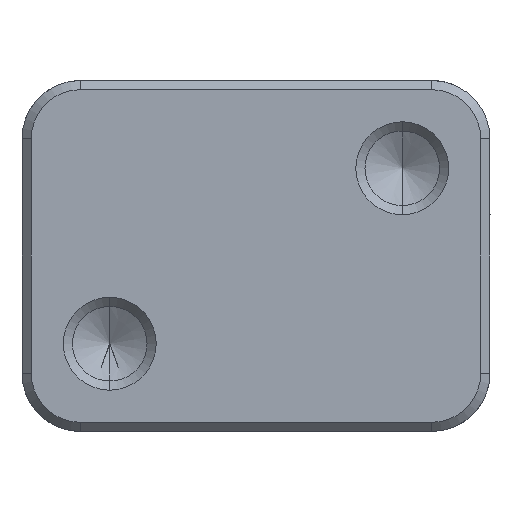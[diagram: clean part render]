
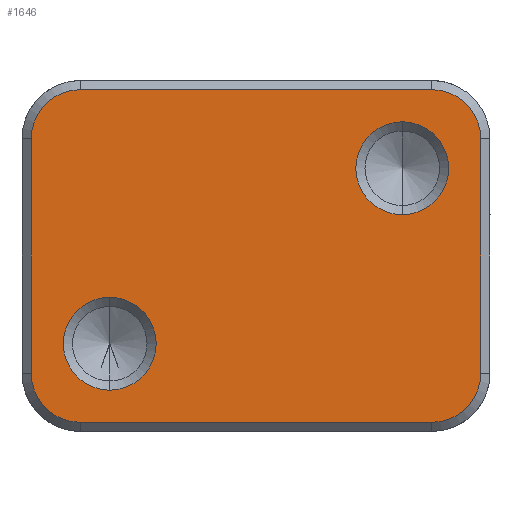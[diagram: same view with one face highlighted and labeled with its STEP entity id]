
A CAD part, front view. The second image highlights one B-rep face of the part: STEP entity #1646.
In plain terms, the highlighted planar face has unit normal (0, -1, 0).
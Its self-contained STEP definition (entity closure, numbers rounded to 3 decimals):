
#25 = CIRCLE ( 'NONE', #15623, 6.75 ) ;
#193 = AXIS2_PLACEMENT_3D ( 'NONE', #12850, #5248, #10377 ) ;
#196 = CARTESIAN_POINT ( 'NONE',  ( -20.001, 0., -18.362 ) ) ;
#272 = AXIS2_PLACEMENT_3D ( 'NONE', #15151, #6307, #5979 ) ;
#387 = VERTEX_POINT ( 'NONE', #14066 ) ;
#551 = ORIENTED_EDGE ( 'NONE', *, *, #14166, .T. ) ;
#659 = VERTEX_POINT ( 'NONE', #816 ) ;
#794 = CARTESIAN_POINT ( 'NONE',  ( 20.001, 0., 5.641 ) ) ;
#816 = CARTESIAN_POINT ( 'NONE',  ( -20.001, 0., -5.663 ) ) ;
#866 = CARTESIAN_POINT ( 'NONE',  ( -30.75, 0., -24.012 ) ) ;
#1018 = EDGE_CURVE ( 'NONE', #8733, #659, #9178, .T. ) ;
#1046 = DIRECTION ( 'NONE',  ( 0., 0., -1. ) ) ;
#1055 = ORIENTED_EDGE ( 'NONE', *, *, #13277, .F. ) ;
#1536 = VERTEX_POINT ( 'NONE', #12969 ) ;
#1646 = ADVANCED_FACE ( 'NONE', ( #3445, #10728, #8332 ), #5614, .T. ) ;
#1732 = VERTEX_POINT ( 'NONE', #8170 ) ;
#2555 = CARTESIAN_POINT ( 'NONE',  ( -24.001, 0., -16.012 ) ) ;
#2889 = CARTESIAN_POINT ( 'NONE',  ( 30.75, 0., -16.012 ) ) ;
#2956 = LINE ( 'NONE', #4598, #14144 ) ;
#3445 = FACE_BOUND ( 'NONE', #6456, .T. ) ;
#3537 = DIRECTION ( 'NONE',  ( 0., 1., 0. ) ) ;
#3930 = EDGE_CURVE ( 'NONE', #5977, #1732, #7165, .T. ) ;
#4195 = DIRECTION ( 'NONE',  ( 0., 0., 1. ) ) ;
#4285 = EDGE_CURVE ( 'NONE', #12590, #11844, #5567, .T. ) ;
#4290 = VERTEX_POINT ( 'NONE', #2889 ) ;
#4345 = CARTESIAN_POINT ( 'NONE',  ( -24.001, 0., 22.74 ) ) ;
#4598 = CARTESIAN_POINT ( 'NONE',  ( -32., 0., -22.762 ) ) ;
#4607 = AXIS2_PLACEMENT_3D ( 'NONE', #7475, #6541, #6626 ) ;
#4771 = CARTESIAN_POINT ( 'NONE',  ( -20.001, 0., -12.012 ) ) ;
#4908 = LINE ( 'NONE', #12525, #12711 ) ;
#5043 = DIRECTION ( 'NONE',  ( 0., 1., 0. ) ) ;
#5248 = DIRECTION ( 'NONE',  ( 0., 1., 0. ) ) ;
#5399 = ORIENTED_EDGE ( 'NONE', *, *, #15796, .F. ) ;
#5446 = EDGE_CURVE ( 'NONE', #387, #15125, #2956, .T. ) ;
#5480 = AXIS2_PLACEMENT_3D ( 'NONE', #4771, #3537, #1046 ) ;
#5511 = EDGE_CURVE ( 'NONE', #15012, #1536, #8490, .T. ) ;
#5537 = ORIENTED_EDGE ( 'NONE', *, *, #3930, .T. ) ;
#5567 = CIRCLE ( 'NONE', #12416, 6.35 ) ;
#5614 = PLANE ( 'NONE',  #12865 ) ;
#5853 = DIRECTION ( 'NONE',  ( 0., -1., 0. ) ) ;
#5891 = EDGE_CURVE ( 'NONE', #659, #8733, #13588, .T. ) ;
#5977 = VERTEX_POINT ( 'NONE', #14135 ) ;
#5979 = DIRECTION ( 'NONE',  ( 0., 0., 1. ) ) ;
#6008 = DIRECTION ( 'NONE',  ( -1., 0., 0. ) ) ;
#6307 = DIRECTION ( 'NONE',  ( 0., -1., 0. ) ) ;
#6324 = DIRECTION ( 'NONE',  ( -1., 0., 0. ) ) ;
#6455 = DIRECTION ( 'NONE',  ( 0., 0., -1. ) ) ;
#6456 = EDGE_LOOP ( 'NONE', ( #12629, #14719 ) ) ;
#6541 = DIRECTION ( 'NONE',  ( 0., 1., 0. ) ) ;
#6626 = DIRECTION ( 'NONE',  ( 0., 0., -1. ) ) ;
#6807 = CIRCLE ( 'NONE', #16043, 6.75 ) ;
#7165 = CIRCLE ( 'NONE', #272, 6.75 ) ;
#7270 = CARTESIAN_POINT ( 'NONE',  ( 30.75, 0., -24.012 ) ) ;
#7284 = DIRECTION ( 'NONE',  ( 0., 1., 0. ) ) ;
#7475 = CARTESIAN_POINT ( 'NONE',  ( -20.001, 0., -12.012 ) ) ;
#7609 = CARTESIAN_POINT ( 'NONE',  ( 20.001, 0., 11.99 ) ) ;
#8040 = EDGE_CURVE ( 'NONE', #4290, #5977, #10978, .T. ) ;
#8170 = CARTESIAN_POINT ( 'NONE',  ( 24.001, 0., 22.74 ) ) ;
#8332 = FACE_BOUND ( 'NONE', #15581, .T. ) ;
#8351 = EDGE_LOOP ( 'NONE', ( #5399, #11985, #5537, #12900, #13631, #9738, #1055, #15317 ) ) ;
#8382 = VECTOR ( 'NONE', #11043, 1000. ) ;
#8490 = LINE ( 'NONE', #866, #8382 ) ;
#8733 = VERTEX_POINT ( 'NONE', #196 ) ;
#9065 = DIRECTION ( 'NONE',  ( 0., 1., 0. ) ) ;
#9178 = CIRCLE ( 'NONE', #5480, 6.35 ) ;
#9505 = CARTESIAN_POINT ( 'NONE',  ( -32., 0., -24.012 ) ) ;
#9738 = ORIENTED_EDGE ( 'NONE', *, *, #5511, .T. ) ;
#10012 = DIRECTION ( 'NONE',  ( 0., 0., 1. ) ) ;
#10222 = VECTOR ( 'NONE', #14789, 1000. ) ;
#10233 = VERTEX_POINT ( 'NONE', #4345 ) ;
#10377 = DIRECTION ( 'NONE',  ( 0., 0., -1. ) ) ;
#10460 = CARTESIAN_POINT ( 'NONE',  ( 24.001, 0., -16.012 ) ) ;
#10474 = DIRECTION ( 'NONE',  ( 0., -1., 0. ) ) ;
#10650 = DIRECTION ( 'NONE',  ( 1., 0., 0. ) ) ;
#10728 = FACE_OUTER_BOUND ( 'NONE', #8351, .T. ) ;
#10773 = CIRCLE ( 'NONE', #193, 6.35 ) ;
#10978 = LINE ( 'NONE', #7270, #10222 ) ;
#11043 = DIRECTION ( 'NONE',  ( 0., 0., -1. ) ) ;
#11798 = CARTESIAN_POINT ( 'NONE',  ( -24.001, 0., 15.99 ) ) ;
#11844 = VERTEX_POINT ( 'NONE', #13470 ) ;
#11973 = EDGE_CURVE ( 'NONE', #1732, #10233, #4908, .T. ) ;
#11985 = ORIENTED_EDGE ( 'NONE', *, *, #8040, .T. ) ;
#12086 = CIRCLE ( 'NONE', #14197, 6.75 ) ;
#12416 = AXIS2_PLACEMENT_3D ( 'NONE', #7609, #5043, #6455 ) ;
#12525 = CARTESIAN_POINT ( 'NONE',  ( -32., 0., 22.74 ) ) ;
#12590 = VERTEX_POINT ( 'NONE', #794 ) ;
#12629 = ORIENTED_EDGE ( 'NONE', *, *, #1018, .T. ) ;
#12711 = VECTOR ( 'NONE', #6324, 1000. ) ;
#12850 = CARTESIAN_POINT ( 'NONE',  ( 20.001, 0., 11.99 ) ) ;
#12865 = AXIS2_PLACEMENT_3D ( 'NONE', #9505, #5853, #10650 ) ;
#12900 = ORIENTED_EDGE ( 'NONE', *, *, #11973, .T. ) ;
#12969 = CARTESIAN_POINT ( 'NONE',  ( -30.75, 0., -16.012 ) ) ;
#13021 = CARTESIAN_POINT ( 'NONE',  ( -30.75, 0., 15.99 ) ) ;
#13277 = EDGE_CURVE ( 'NONE', #15125, #1536, #12086, .T. ) ;
#13470 = CARTESIAN_POINT ( 'NONE',  ( 20.001, 0., 18.34 ) ) ;
#13588 = CIRCLE ( 'NONE', #4607, 6.35 ) ;
#13631 = ORIENTED_EDGE ( 'NONE', *, *, #13806, .T. ) ;
#13806 = EDGE_CURVE ( 'NONE', #10233, #15012, #6807, .T. ) ;
#14066 = CARTESIAN_POINT ( 'NONE',  ( 24.001, 0., -22.762 ) ) ;
#14135 = CARTESIAN_POINT ( 'NONE',  ( 30.75, 0., 15.99 ) ) ;
#14144 = VECTOR ( 'NONE', #6008, 1000. ) ;
#14166 = EDGE_CURVE ( 'NONE', #11844, #12590, #10773, .T. ) ;
#14197 = AXIS2_PLACEMENT_3D ( 'NONE', #2555, #7284, #10012 ) ;
#14556 = ORIENTED_EDGE ( 'NONE', *, *, #4285, .T. ) ;
#14719 = ORIENTED_EDGE ( 'NONE', *, *, #5891, .T. ) ;
#14789 = DIRECTION ( 'NONE',  ( 0., 0., 1. ) ) ;
#14831 = CARTESIAN_POINT ( 'NONE',  ( -24.001, 0., -22.762 ) ) ;
#15012 = VERTEX_POINT ( 'NONE', #13021 ) ;
#15125 = VERTEX_POINT ( 'NONE', #14831 ) ;
#15151 = CARTESIAN_POINT ( 'NONE',  ( 24.001, 0., 15.99 ) ) ;
#15317 = ORIENTED_EDGE ( 'NONE', *, *, #5446, .F. ) ;
#15581 = EDGE_LOOP ( 'NONE', ( #14556, #551 ) ) ;
#15584 = DIRECTION ( 'NONE',  ( 0., 0., 1. ) ) ;
#15623 = AXIS2_PLACEMENT_3D ( 'NONE', #10460, #9065, #15584 ) ;
#15796 = EDGE_CURVE ( 'NONE', #4290, #387, #25, .T. ) ;
#16043 = AXIS2_PLACEMENT_3D ( 'NONE', #11798, #10474, #4195 ) ;
